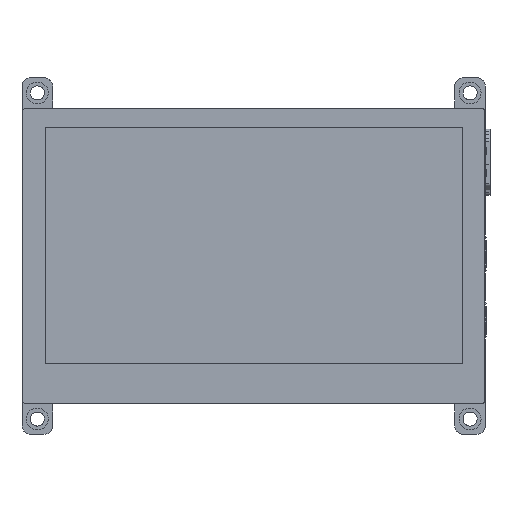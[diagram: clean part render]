
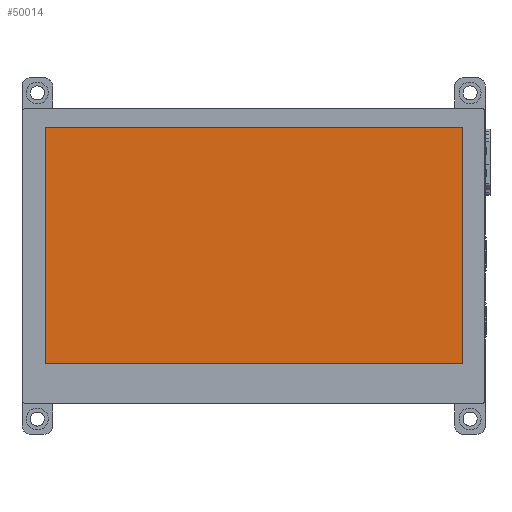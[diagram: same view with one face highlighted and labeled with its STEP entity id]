
A CAD part, top view. The second image highlights one B-rep face of the part: STEP entity #50014.
In plain terms, the highlighted free-form (B-spline) face has degree [1, 1] with [2, 2] control points.
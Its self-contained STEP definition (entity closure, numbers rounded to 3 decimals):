
#108=(GEOMETRIC_REPRESENTATION_CONTEXT(2)PARAMETRIC_REPRESENTATION_CONTEXT()REPRESENTATION_CONTEXT('',''));
#46112=CARTESIAN_POINT('',(1.78,66.45,0.8));
#46113=CARTESIAN_POINT('',(96.82,66.45,0.8));
#46114=CARTESIAN_POINT('',(1.78,66.45,5.3));
#46115=CARTESIAN_POINT('',(96.82,66.45,5.3));
#46116=B_SPLINE_SURFACE_WITH_KNOTS('',1,1,((#46112,#46113),(#46114,#46115)),.UNSPECIFIED.,.F.,.F.,.U.,(2,2),(2,2),(-0.005,0.),(0.002,0.097),.UNSPECIFIED.);
#46135=CARTESIAN_POINT('',(96.82,12.59,5.3));
#46136=CARTESIAN_POINT('',(96.82,66.45,5.3));
#46137=CARTESIAN_POINT('',(96.82,12.59,0.8));
#46138=CARTESIAN_POINT('',(96.82,66.45,0.8));
#46139=B_SPLINE_SURFACE_WITH_KNOTS('',1,1,((#46135,#46136),(#46137,#46138)),.UNSPECIFIED.,.F.,.F.,.U.,(2,2),(2,2),(0.,0.005),(0.013,0.066),.UNSPECIFIED.);
#46158=CARTESIAN_POINT('',(1.78,12.59,5.3));
#46159=CARTESIAN_POINT('',(96.82,12.59,5.3));
#46160=CARTESIAN_POINT('',(1.78,12.59,0.8));
#46161=CARTESIAN_POINT('',(96.82,12.59,0.8));
#46162=B_SPLINE_SURFACE_WITH_KNOTS('',1,1,((#46158,#46159),(#46160,#46161)),.UNSPECIFIED.,.F.,.F.,.U.,(2,2),(2,2),(0.,0.005),(0.002,0.097),.UNSPECIFIED.);
#46179=CARTESIAN_POINT('',(1.78,12.59,0.8));
#46180=CARTESIAN_POINT('',(1.78,66.45,0.8));
#46181=CARTESIAN_POINT('',(1.78,12.59,5.3));
#46182=CARTESIAN_POINT('',(1.78,66.45,5.3));
#46183=B_SPLINE_SURFACE_WITH_KNOTS('',1,1,((#46179,#46180),(#46181,#46182)),.UNSPECIFIED.,.F.,.F.,.U.,(2,2),(2,2),(-0.005,0.),(0.013,0.066),.UNSPECIFIED.);
#49848=CARTESIAN_POINT('',(1.78,66.45,5.3));
#49849=VERTEX_POINT('',#49848);
#49866=CARTESIAN_POINT('',(96.82,66.45,5.3));
#49867=VERTEX_POINT('',#49866);
#49868=CARTESIAN_POINT('',(96.82,12.59,5.3));
#49869=CARTESIAN_POINT('',(96.82,66.45,5.3));
#49870=CARTESIAN_POINT('',(1.78,12.59,5.3));
#49871=CARTESIAN_POINT('',(1.78,66.45,5.3));
#49872=B_SPLINE_SURFACE_WITH_KNOTS('',1,1,((#49868,#49869),(#49870,#49871)),.UNSPECIFIED.,.F.,.F.,.U.,(2,2),(2,2),(-0.097,-0.002),(0.013,0.066),.UNSPECIFIED.);
#49873=CARTESIAN_POINT('',(0.,0.002));
#49874=CARTESIAN_POINT('',(0.,0.097));
#49875=B_SPLINE_CURVE_WITH_KNOTS('',1,(#49873,#49874),.UNSPECIFIED.,.F.,.F.,(2,2),(0.002,0.097),.UNSPECIFIED.);
#49876=DEFINITIONAL_REPRESENTATION('',(#49875),#108);
#49877=PCURVE('',#46116,#49876);
#49878=CARTESIAN_POINT('',(-0.002,0.066));
#49879=CARTESIAN_POINT('',(-0.097,0.066));
#49880=B_SPLINE_CURVE_WITH_KNOTS('',1,(#49878,#49879),.UNSPECIFIED.,.F.,.F.,(2,2),(0.002,0.097),.UNSPECIFIED.);
#49881=DEFINITIONAL_REPRESENTATION('',(#49880),#108);
#49882=PCURVE('',#49872,#49881);
#49883=CARTESIAN_POINT('',(1.78,66.45,5.3));
#49884=CARTESIAN_POINT('',(96.82,66.45,5.3));
#49885=B_SPLINE_CURVE_WITH_KNOTS('',1,(#49883,#49884),.UNSPECIFIED.,.F.,.F.,(2,2),(0.002,0.097),.UNSPECIFIED.);
#49886=INTERSECTION_CURVE('',#49885,(#49877,#49882),.PCURVE_S1.);
#49887=EDGE_CURVE('',#49849,#49867,#49886,.T.);
#49909=CARTESIAN_POINT('',(1.78,12.59,5.3));
#49910=VERTEX_POINT('',#49909);
#49927=CARTESIAN_POINT('',(0.,0.013));
#49928=CARTESIAN_POINT('',(0.,0.066));
#49929=B_SPLINE_CURVE_WITH_KNOTS('',1,(#49927,#49928),.UNSPECIFIED.,.F.,.F.,(2,2),(0.013,0.066),.UNSPECIFIED.);
#49930=DEFINITIONAL_REPRESENTATION('',(#49929),#108);
#49931=PCURVE('',#46183,#49930);
#49932=CARTESIAN_POINT('',(-0.002,0.013));
#49933=CARTESIAN_POINT('',(-0.002,0.066));
#49934=B_SPLINE_CURVE_WITH_KNOTS('',1,(#49932,#49933),.UNSPECIFIED.,.F.,.F.,(2,2),(0.013,0.066),.UNSPECIFIED.);
#49935=DEFINITIONAL_REPRESENTATION('',(#49934),#108);
#49936=PCURVE('',#49872,#49935);
#49937=CARTESIAN_POINT('',(1.78,12.59,5.3));
#49938=CARTESIAN_POINT('',(1.78,66.45,5.3));
#49939=B_SPLINE_CURVE_WITH_KNOTS('',1,(#49937,#49938),.UNSPECIFIED.,.F.,.F.,(2,2),(0.013,0.066),.UNSPECIFIED.);
#49940=INTERSECTION_CURVE('',#49939,(#49931,#49936),.PCURVE_S1.);
#49941=EDGE_CURVE('',#49910,#49849,#49940,.T.);
#49948=CARTESIAN_POINT('',(96.82,12.59,5.3));
#49949=VERTEX_POINT('',#49948);
#49966=CARTESIAN_POINT('',(0.,0.097));
#49967=CARTESIAN_POINT('',(0.,0.002));
#49968=B_SPLINE_CURVE_WITH_KNOTS('',1,(#49966,#49967),.UNSPECIFIED.,.F.,.F.,(2,2),(-0.097,-0.002),.UNSPECIFIED.);
#49969=DEFINITIONAL_REPRESENTATION('',(#49968),#108);
#49970=PCURVE('',#46162,#49969);
#49971=CARTESIAN_POINT('',(-0.097,0.013));
#49972=CARTESIAN_POINT('',(-0.002,0.013));
#49973=B_SPLINE_CURVE_WITH_KNOTS('',1,(#49971,#49972),.UNSPECIFIED.,.F.,.F.,(2,2),(-0.097,-0.002),.UNSPECIFIED.);
#49974=DEFINITIONAL_REPRESENTATION('',(#49973),#108);
#49975=PCURVE('',#49872,#49974);
#49976=CARTESIAN_POINT('',(96.82,12.59,5.3));
#49977=CARTESIAN_POINT('',(1.78,12.59,5.3));
#49978=B_SPLINE_CURVE_WITH_KNOTS('',1,(#49976,#49977),.UNSPECIFIED.,.F.,.F.,(2,2),(-0.097,-0.002),.UNSPECIFIED.);
#49979=INTERSECTION_CURVE('',#49978,(#49970,#49975),.PCURVE_S1.);
#49980=EDGE_CURVE('',#49949,#49910,#49979,.T.);
#49988=CARTESIAN_POINT('',(0.,0.066));
#49989=CARTESIAN_POINT('',(0.,0.013));
#49990=B_SPLINE_CURVE_WITH_KNOTS('',1,(#49988,#49989),.UNSPECIFIED.,.F.,.F.,(2,2),(-0.066,-0.013),.UNSPECIFIED.);
#49991=DEFINITIONAL_REPRESENTATION('',(#49990),#108);
#49992=PCURVE('',#46139,#49991);
#49993=CARTESIAN_POINT('',(-0.097,0.066));
#49994=CARTESIAN_POINT('',(-0.097,0.013));
#49995=B_SPLINE_CURVE_WITH_KNOTS('',1,(#49993,#49994),.UNSPECIFIED.,.F.,.F.,(2,2),(-0.066,-0.013),.UNSPECIFIED.);
#49996=DEFINITIONAL_REPRESENTATION('',(#49995),#108);
#49997=PCURVE('',#49872,#49996);
#49998=CARTESIAN_POINT('',(96.82,66.45,5.3));
#49999=CARTESIAN_POINT('',(96.82,12.59,5.3));
#50000=B_SPLINE_CURVE_WITH_KNOTS('',1,(#49998,#49999),.UNSPECIFIED.,.F.,.F.,(2,2),(-0.066,-0.013),.UNSPECIFIED.);
#50001=INTERSECTION_CURVE('',#50000,(#49992,#49997),.PCURVE_S1.);
#50002=EDGE_CURVE('',#49867,#49949,#50001,.T.);
#50008=ORIENTED_EDGE('',*,*,#49887,.F.);
#50009=ORIENTED_EDGE('',*,*,#49941,.F.);
#50010=ORIENTED_EDGE('',*,*,#49980,.F.);
#50011=ORIENTED_EDGE('',*,*,#50002,.F.);
#50012=EDGE_LOOP('',(#50008,#50009,#50010,#50011));
#50013=FACE_BOUND('',#50012,.T.);
#50014=ADVANCED_FACE('',(#50013),#49872,.F.);
